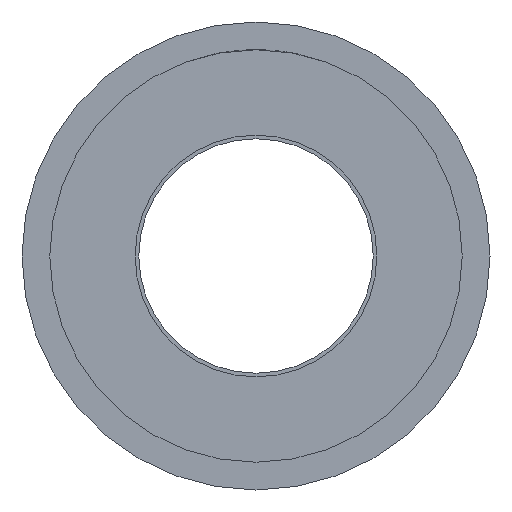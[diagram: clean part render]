
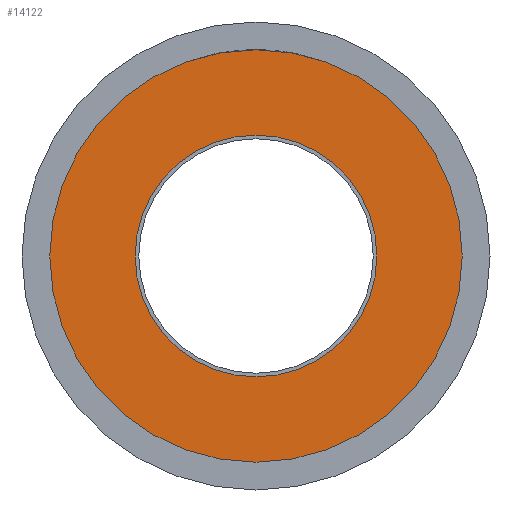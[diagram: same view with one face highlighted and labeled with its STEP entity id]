
A CAD part, front view. The second image highlights one B-rep face of the part: STEP entity #14122.
In plain terms, the highlighted planar face has unit normal (0, -1, 0).
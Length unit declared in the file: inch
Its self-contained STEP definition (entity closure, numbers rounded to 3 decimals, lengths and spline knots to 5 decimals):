
#13805=CARTESIAN_POINT('',(5.11811,3.74016,0.0));
#13806=VERTEX_POINT('',#13805);
#13807=CARTESIAN_POINT('',(0.0,3.74016,0.0));
#13808=DIRECTION('',(0.0,-1.0,0.0));
#13809=DIRECTION('',(1.0,0.0,0.0));
#13810=AXIS2_PLACEMENT_3D('',#13807,#13808,#13809);
#13811=CIRCLE('',#13810,5.11811);
#13812=EDGE_CURVE('',#13806,#13806,#13811,.T.);
#14103=CARTESIAN_POINT('',(4.05906,3.74016,0.0));
#14104=DIRECTION('',(0.0,-1.0,0.0));
#14105=DIRECTION('',(0.0,0.0,-1.0));
#14106=AXIS2_PLACEMENT_3D('',#14103,#14104,#14105);
#14107=PLANE('',#14106);
#14108=ORIENTED_EDGE('',*,*,#13812,.T.);
#14109=EDGE_LOOP('',(#14108));
#14110=FACE_OUTER_BOUND('',#14109,.T.);
#14111=CARTESIAN_POINT('',(3.,3.74016,0.0));
#14112=VERTEX_POINT('',#14111);
#14113=CARTESIAN_POINT('',(0.0,3.74016,0.0));
#14114=DIRECTION('',(0.0,-1.0,0.0));
#14115=DIRECTION('',(1.0,0.0,0.0));
#14116=AXIS2_PLACEMENT_3D('',#14113,#14114,#14115);
#14117=CIRCLE('',#14116,3.);
#14118=EDGE_CURVE('',#14112,#14112,#14117,.T.);
#14119=ORIENTED_EDGE('',*,*,#14118,.F.);
#14120=EDGE_LOOP('',(#14119));
#14121=FACE_BOUND('',#14120,.T.);
#14122=ADVANCED_FACE('',(#14110,#14121),#14107,.T.);
